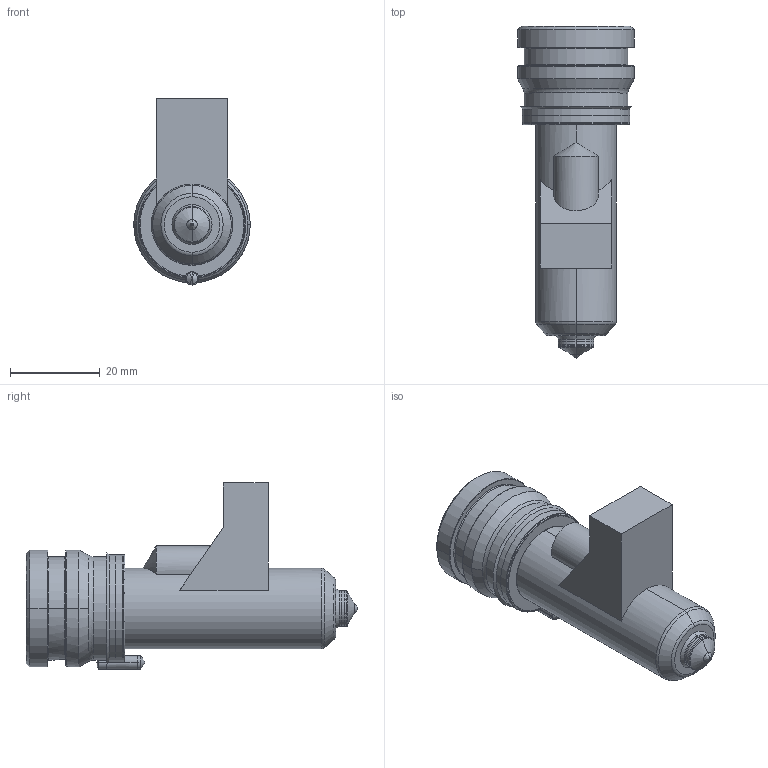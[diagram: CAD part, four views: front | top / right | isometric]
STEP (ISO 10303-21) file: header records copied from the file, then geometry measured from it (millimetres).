
FILE_DESCRIPTION((''),'2;1');
FILE_NAME('MPN-08-24-TS8-056-M','2026-02-05T13:24:05',('UPTIO'),('Thermoplay S.p.A.'),'CREO PARAMETRIC BY PTC INC, 2023494','CREO PARAMETRIC BY PTC INC, 2023494','');
FILE_SCHEMA(('CONFIG_CONTROL_DESIGN','SHAPE_APPEARANCE_LAYERS_GROUPS'));
Length unit declared in the file: millimetre
Products named in the file (1): MPN-08-24-TS8-056-M
Bounding box: 26 x 74 x 41.5 mm (x, y, z)
Volume: 16047.5 mm3; surface area: 20220.9 mm2
Topology: 2 solids, 5 shells, 532 faces, 1371 edges, 843 vertices
Faces by surface type: cylinder 172, plane 146, bspline 77, torus 62, cone 58, sphere 11, extrusion 6
Entity records: 29233 total; most frequent: CARTESIAN_POINT 13594, ORIENTED_EDGE 2720, DIRECTION 2456, EDGE_CURVE 1360, AXIS2_PLACEMENT_3D 960, VERTEX_POINT 843, EDGE_LOOP 561, VECTOR 536
